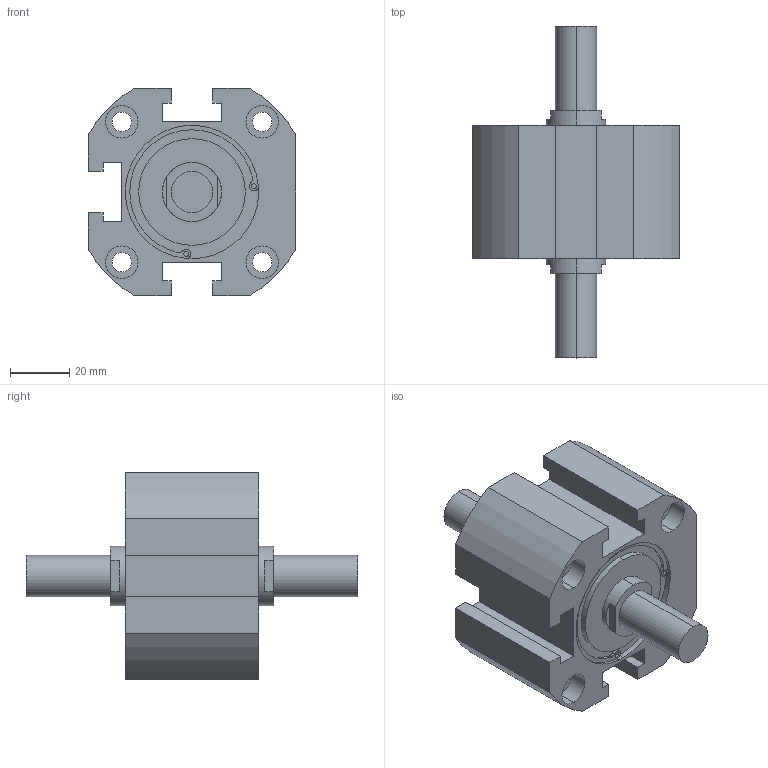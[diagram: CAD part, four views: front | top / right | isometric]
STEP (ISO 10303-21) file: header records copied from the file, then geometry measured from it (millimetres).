
FILE_DESCRIPTION (( 'STEP AP203' ), '1' );
FILE_NAME ('XG#M7-50-10.STEP', '2016-05-24T02:24:28', ( '' ), ( '' ), 'SwSTEP 2.0', 'SolidWorks 2014', '' );
FILE_SCHEMA (( 'CONFIG_CONTROL_DESIGN' ));
Length unit declared in the file: millimetre
Products named in the file (1): XG#M7-50-10
Bounding box: 70 x 112 x 70 mm (x, y, z)
Volume: 175105.5 mm3; surface area: 32526.2 mm2
Topology: 1 solids, 1 shells, 147 faces, 361 edges, 236 vertices
Faces by surface type: cylinder 77, plane 62, cone 8
Entity records: 4466 total; most frequent: DIRECTION 823, CARTESIAN_POINT 741, ORIENTED_EDGE 714, EDGE_CURVE 357, AXIS2_PLACEMENT_3D 318, VERTEX_POINT 236, LINE 187, VECTOR 187
